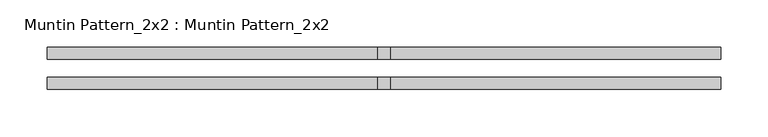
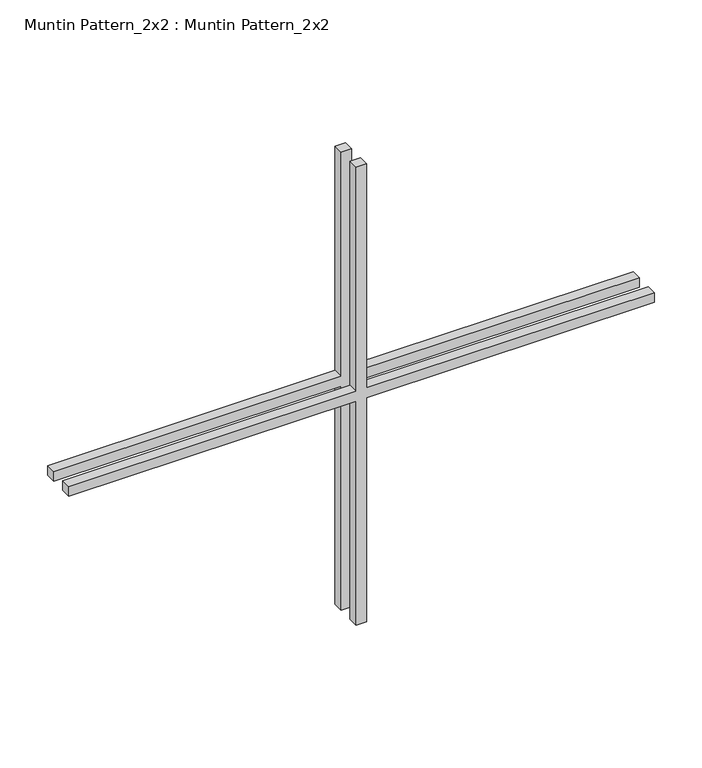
"""IFC4 building model written with IfcOpenShell, lengths in millimetres: proxy geometry, Muntin Pattern_2x2 : Muntin Pattern_2x2."""

from ifc_helpers import new_model, si_unit, frame, origin, place, context, project, spatial, polyline, outline, extrude, source, transform, mapped, element, save


def muntin_pattern_2x2_muntin_pattern_2x2_d0d6a7fa(model_context):
    return source(origin(), model_context, "Body", "SweptSolid", [
        extrude(outline(polyline([(300.0375, -6.35), (300.0375, -355.6), (287.3375, -355.6), (287.3375, -6.35), (0.0, -6.35), (0.0, 6.35), (287.3375, 6.35), (287.3375, 355.6), (300.0375, 355.6), (300.0375, 6.35), (587.375, 6.35), (587.375, -6.35), (300.0375, -6.35)])), frame((0.0, 9.525, 0.0), z_axis=(0.0, 1.0, 0.0), x_axis=(0.0, 0.0, 1.0)), (0.0, 0.0, 1.0), 12.7),
        extrude(outline(polyline([(300.0375, -6.35), (300.0375, -355.6), (287.3375, -355.6), (287.3375, -6.35), (0.0, -6.35), (0.0, 6.35), (287.3375, 6.35), (287.3375, 355.6), (300.0375, 355.6), (300.0375, 6.35), (587.375, 6.35), (587.375, -6.35), (300.0375, -6.35)])), frame((0.0, -22.225, 0.0), z_axis=(0.0, 1.0, 0.0), x_axis=(0.0, 0.0, 1.0)), (0.0, 0.0, 1.0), 12.7),
    ])


if __name__ == "__main__":
    model = new_model("IFC4")
    model_context = context("Model", 3, world=origin())
    ifc_project = project(units=[si_unit("LENGTHUNIT", "METRE", prefix="MILLI")], contexts=[model_context])
    site = spatial("IfcSite", under=ifc_project)
    building = spatial("IfcBuilding", under=site)
    placement = place(None, origin())
    muntin_pattern_2x2_muntin_pattern_2x2_shape = muntin_pattern_2x2_muntin_pattern_2x2_d0d6a7fa(model_context)
    element("IfcBuildingElementProxy", 1, Name="Muntin Pattern_2x2 : Muntin Pattern_2x2", ObjectType="Muntin Pattern_2x2 : Muntin Pattern_2x2", at=placement, inside=building, context=model_context, shape_type="MappedRepresentation", body=[
        mapped(muntin_pattern_2x2_muntin_pattern_2x2_shape, transform((0.0, 0.0, 0.0), x_axis=(1.0, 0.0, 0.0), y_axis=(0.0, 1.0, 0.0), z_axis=(0.0, 0.0, 1.0))),
    ])
    save(model, "model.ifc")
